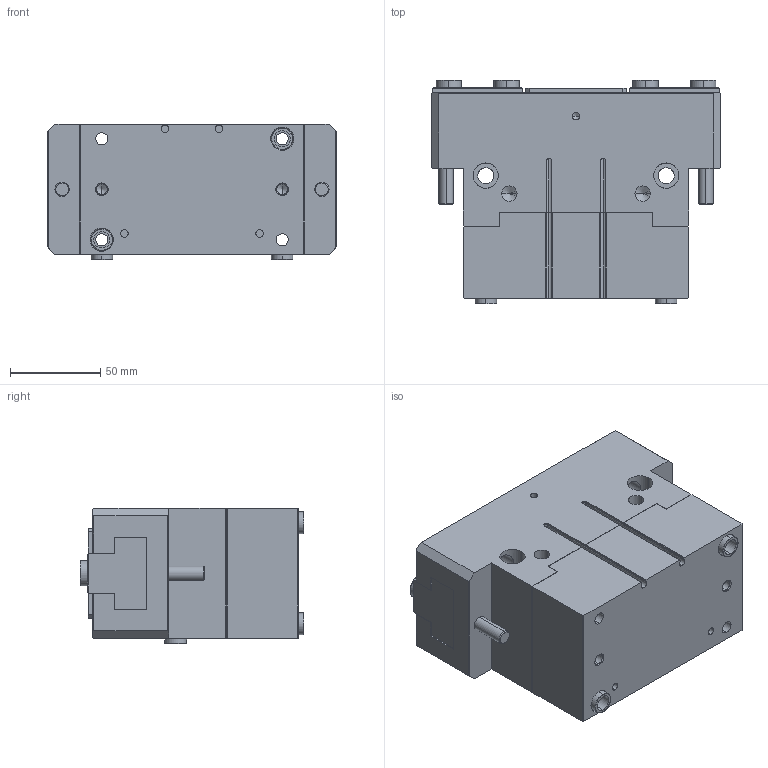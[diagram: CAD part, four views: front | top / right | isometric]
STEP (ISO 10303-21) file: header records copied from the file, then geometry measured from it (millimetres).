
FILE_DESCRIPTION (( 'STEP AP203' ), '1' );
FILE_NAME ('OPP-160-C1-MC&MA-原始檔-組合-W106.04.20.STEP', '2017-04-20T01:11:15', ( 'DanyaoCAD' ), ( '' ), 'SwSTEP 2.0', 'SolidWorks 2016', '' );
FILE_SCHEMA (( 'CONFIG_CONTROL_DESIGN' ));
Length unit declared in the file: millimetre
Products named in the file (7): Boccola _2; Boccola _4; Griffa; Corpo; Fondello; Coperchio; OPP-160-C1-MC&MA-原始檔-組合-W106.04.20
Assembly tree (13 placements, depth 2):
  OPP-160-C1-MC&MA-原始檔-組合-W106.04.20
    Boccola _2  x4
    Boccola _4  x4
    Griffa  x2
    Corpo
    Fondello
    Coperchio
Bounding box: 160 x 124 x 75 mm (x, y, z)
Volume: 1079176.2 mm3; surface area: 163763.6 mm2
Topology: 13 solids, 13 shells, 1222 faces, 3302 edges, 2144 vertices
Faces by surface type: bspline 672, plane 318, cylinder 156, cone 76
Entity records: 53130 total; most frequent: CARTESIAN_POINT 28130, ORIENTED_EDGE 6090, EDGE_CURVE 3045, DIRECTION 2981, VERTEX_POINT 2010, VECTOR 1443, LINE 1443, B_SPLINE_CURVE_WITH_KNOTS 1314
